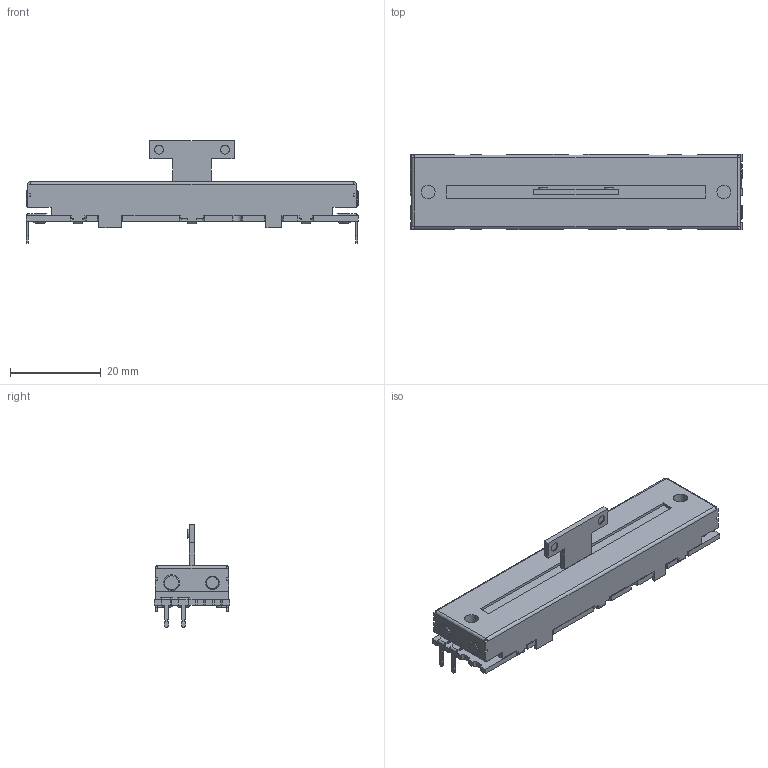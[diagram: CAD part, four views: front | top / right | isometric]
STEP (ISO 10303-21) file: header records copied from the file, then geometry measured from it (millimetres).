
FILE_DESCRIPTION(('FreeCAD Model'),'2;1');
FILE_NAME('Open CASCADE Shape Model','2023-03-16T15:33:00',(''),(''), 'Open CASCADE STEP processor 7.6','FreeCAD','Unknown');
FILE_SCHEMA(('AUTOMOTIVE_DESIGN { 1 0 10303 214 1 1 1 1 }'));
Length unit declared in the file: millimetre
Products named in the file (1): Fusion002005
Bounding box: 73 x 16.5 x 22.6 mm (x, y, z)
Volume: 9943.9 mm3; surface area: 4862.6 mm2
Topology: 1 solids, 4 shells, 450 faces, 1199 edges, 769 vertices
Faces by surface type: plane 321, cylinder 119, cone 7, torus 3
Full cylindrical faces by diameter (mm): 0.5 x9, 1.5 x3, 1.7 x8, 2 x4, 3 x4, 3.5 x2
Entity records: 31379 total; most frequent: CARTESIAN_POINT 6469, DIRECTION 3786, ORIENTED_EDGE 2398, PCURVE 2398, DEFINITIONAL_REPRESENTATION 2398, LINE 2231, VECTOR 2231, EDGE_CURVE 1199
